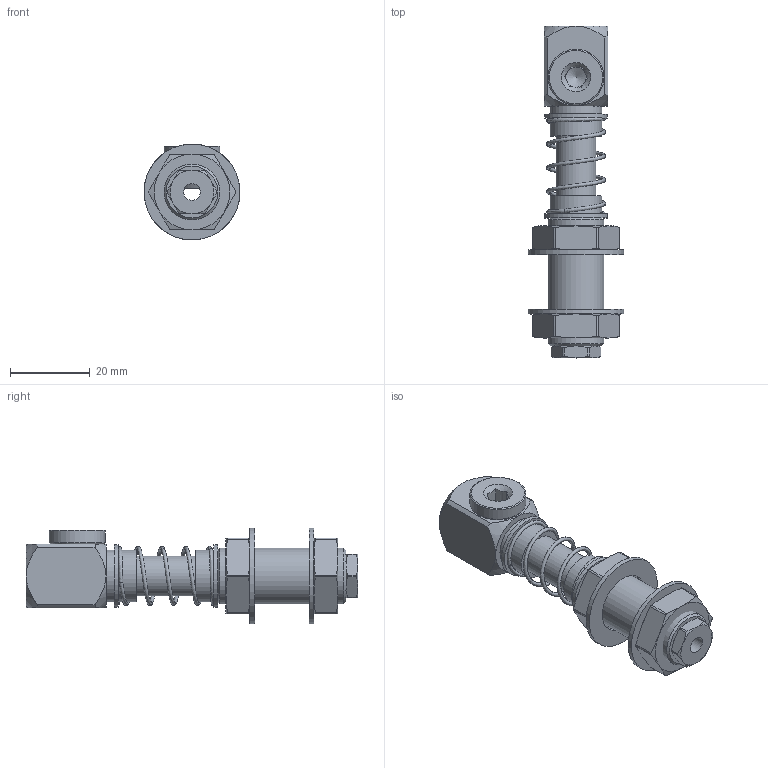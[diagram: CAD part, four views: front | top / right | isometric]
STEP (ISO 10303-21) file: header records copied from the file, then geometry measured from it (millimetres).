
FILE_DESCRIPTION(('STEP AP214'),'1');
FILE_NAME('CA.SARG.14181815.stp','2021-12-28T08:32:00',(' '),(' '),'Spatial InterOp 3D',' ',' ');
FILE_SCHEMA(('AUTOMOTIVE_DESIGN { 1 0 10303 214 1 1 1 1 }'));
Length unit declared in the file: millimetre
Products named in the file (12): CA.SARG.14181815; R.14.SCH; 05.01.001.06; M.15x35; ASSEM1; CA.08.14.014; SAE.14181815.5; SAR.14181815.4; SARG.14181815.3; SAR.14181815.2; SAE.14181815.1
Assembly tree (14 placements, depth 3):
  CA.SARG.14181815
    R.14.SCH  x2
    05.01.001.06  x2
    M.15x35
      ASSEM1
      M.15x35
    CA.08.14.014
    SAE.14181815.5
    SAR.14181815.4  x2
    SARG.14181815.3
    SAR.14181815.2
    SAE.14181815.1
Bounding box: 24 x 83 x 24 mm (x, y, z)
Volume: 13811.1 mm3; surface area: 15056 mm2
Topology: 12 solids, 12 shells, 185 faces, 417 edges, 261 vertices
Faces by surface type: plane 66, cylinder 61, cone 52, bspline 4, torus 2
Full cylindrical faces by diameter (mm): 4.2 x1, 5 x1, 5.1 x1, 6.8 x3, 8 x4, 8.2 x3, 8.8 x4, 9.728 x1, 10 x1, 10.1 x2, 10.2 x1, 12.5 x2, 12.9 x2, 13 x1, 14 x2, 15 x2, 15.8 x2, 24 x2
Entity records: 7316 total; most frequent: CARTESIAN_POINT 2509, DIRECTION 627, ORIENTED_EDGE 556, AXIS2_PLACEMENT_3D 287, EDGE_CURVE 278, EDGE_LOOP 220, VERTEX_POINT 198, FACE_OUTER_BOUND 185
